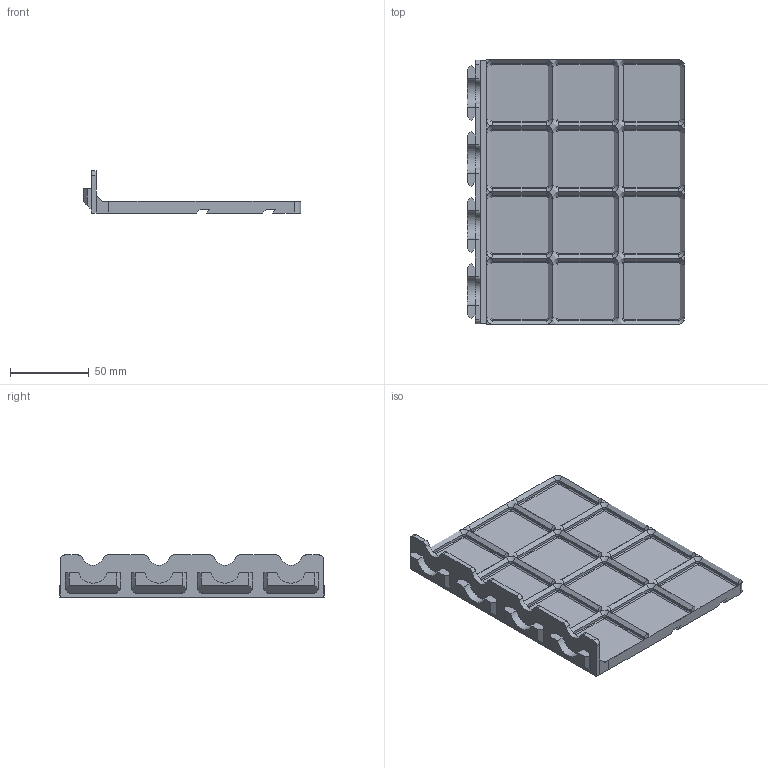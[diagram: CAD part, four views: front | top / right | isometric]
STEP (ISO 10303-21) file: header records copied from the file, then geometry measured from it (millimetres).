
FILE_DESCRIPTION(/* description */ ('','CAx-IF Rec.Pracs.---Representation and Presentation of Product Manufacturing Information (PMI)---4.0---2014-10-13'),/* implementation_level */ '2;1');
FILE_NAME(/* name */ 'Goews Quad Hanger Gridfinity 3x4 Base updated Jan 10.step',/* time_stamp */ '2025-01-10T21:41:21-05:00',/* author */ (''),/* organization */ (''),/* preprocessor_version */ 'ST-DEVELOPER v20',/* originating_system */ 'Autodesk Translation Framework v13.20.0.188',/* authorisation */ '');
FILE_SCHEMA (('AP242_MANAGED_MODEL_BASED_3D_ENGINEERING_MIM_LF { 1 0 10303 442 1 1 4 }'));
Length unit declared in the file: millimetre
Products named in the file (2): Goews Quad Hanger Gridfinity 3x4 Base; Component2
Assembly tree (1 placements, depth 2):
  Goews Quad Hanger Gridfinity 3x4 Base
    Component2
Bounding box: 138.15 x 168 x 26.72 mm (x, y, z)
Volume: 93928.6 mm3; surface area: 63728 mm2
Topology: 1 solids, 1 shells, 456 faces, 1010 edges, 560 vertices
Faces by surface type: plane 246, cylinder 114, cone 96
Entity records: 12185 total; most frequent: DIRECTION 2206, CARTESIAN_POINT 2029, ORIENTED_EDGE 2020, EDGE_CURVE 1010, AXIS2_PLACEMENT_3D 737, LINE 732, VECTOR 732, VERTEX_POINT 560
